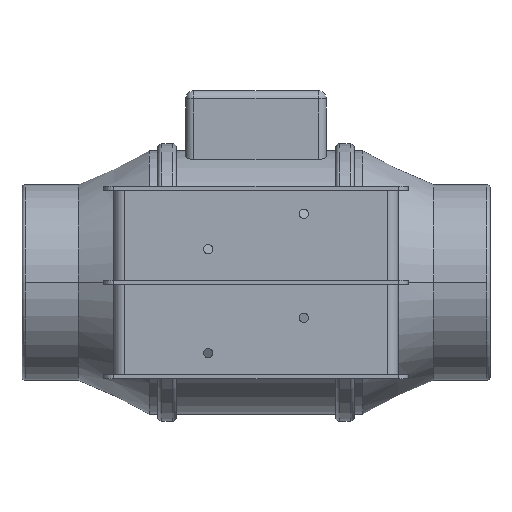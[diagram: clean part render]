
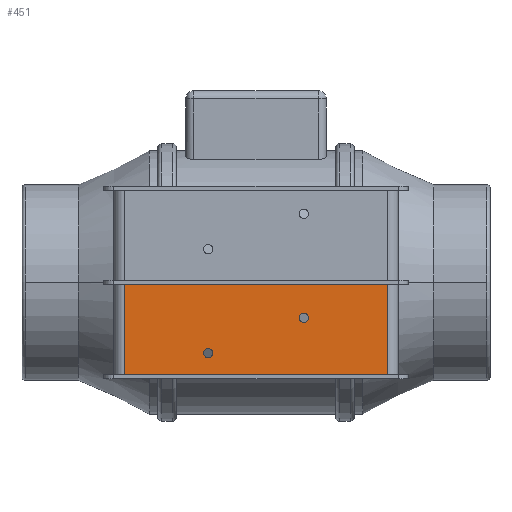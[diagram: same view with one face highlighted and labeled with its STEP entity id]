
A CAD part, front view. The second image highlights one B-rep face of the part: STEP entity #451.
In plain terms, the highlighted planar face has unit normal (0, -1, 0).
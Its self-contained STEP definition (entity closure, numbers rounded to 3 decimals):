
#451=ADVANCED_FACE('',(#969,#970,#971),#972,.T.);
#969=FACE_BOUND('',#1554,.T.);
#970=FACE_BOUND('',#1555,.T.);
#971=FACE_OUTER_BOUND('',#1556,.T.);
#972=PLANE('',#1557);
#1554=EDGE_LOOP('',(#2926,#2927));
#1555=EDGE_LOOP('',(#2928,#2929));
#1556=EDGE_LOOP('',(#2930,#2931,#2932,#2933));
#1557=AXIS2_PLACEMENT_3D('',#2934,#2935,#2936);
#2926=ORIENTED_EDGE('',*,*,#3677,.T.);
#2927=ORIENTED_EDGE('',*,*,#4008,.T.);
#2928=ORIENTED_EDGE('',*,*,#3667,.T.);
#2929=ORIENTED_EDGE('',*,*,#4014,.T.);
#2930=ORIENTED_EDGE('',*,*,#3986,.F.);
#2931=ORIENTED_EDGE('',*,*,#4063,.F.);
#2932=ORIENTED_EDGE('',*,*,#3995,.F.);
#2933=ORIENTED_EDGE('',*,*,#4061,.T.);
#2934=CARTESIAN_POINT('',(0.0,-77.,-47.75));
#2935=DIRECTION('',(0.,-1.0,0.0));
#2936=DIRECTION('',(1.0,0.,0.0));
#3667=EDGE_CURVE('',#4465,#4462,#4466,.T.);
#3677=EDGE_CURVE('',#4483,#4480,#4484,.T.);
#3986=EDGE_CURVE('',#4944,#4946,#4947,.T.);
#3995=EDGE_CURVE('',#4957,#4959,#4960,.T.);
#4008=EDGE_CURVE('',#4480,#4483,#4979,.T.);
#4014=EDGE_CURVE('',#4462,#4465,#4985,.T.);
#4061=EDGE_CURVE('',#4957,#4946,#5054,.T.);
#4063=EDGE_CURVE('',#4959,#4944,#5056,.T.);
#4462=VERTEX_POINT('',#5661);
#4465=VERTEX_POINT('',#5665);
#4466=CIRCLE('',#5666,2.25);
#4480=VERTEX_POINT('',#5683);
#4483=VERTEX_POINT('',#5687);
#4484=CIRCLE('',#5688,2.25);
#4944=VERTEX_POINT('',#6967);
#4946=VERTEX_POINT('',#6969);
#4947=LINE('',#6970,#6971);
#4957=VERTEX_POINT('',#6992);
#4959=VERTEX_POINT('',#6994);
#4960=LINE('',#6995,#6996);
#4979=CIRCLE('',#7028,2.25);
#4985=CIRCLE('',#7034,2.25);
#5054=LINE('',#7124,#7125);
#5056=LINE('',#7127,#7128);
#5661=CARTESIAN_POINT('',(26.0,-77.,-17.5));
#5665=CARTESIAN_POINT('',(21.5,-77.,-17.5));
#5666=AXIS2_PLACEMENT_3D('',#7598,#7599,#7600);
#5683=CARTESIAN_POINT('',(-21.5,-77.,-35.0));
#5687=CARTESIAN_POINT('',(-26.0,-77.,-35.0));
#5688=AXIS2_PLACEMENT_3D('',#7614,#7615,#7616);
#6967=CARTESIAN_POINT('',(-65.4,-77.,-1.0));
#6969=CARTESIAN_POINT('',(65.4,-77.,-1.0));
#6970=CARTESIAN_POINT('',(0.,-77.,-1.0));
#6971=VECTOR('',#8009,1.0);
#6992=CARTESIAN_POINT('',(65.4,-77.,-45.75));
#6994=CARTESIAN_POINT('',(-65.4,-77.,-45.75));
#6995=CARTESIAN_POINT('',(0.,-77.,-45.75));
#6996=VECTOR('',#8021,1.0);
#7028=AXIS2_PLACEMENT_3D('',#8041,#8042,#8043);
#7034=AXIS2_PLACEMENT_3D('',#8053,#8054,#8055);
#7124=CARTESIAN_POINT('',(65.4,-77.,-47.75));
#7125=VECTOR('',#8119,1.0);
#7127=CARTESIAN_POINT('',(-65.4,-77.,-47.75));
#7128=VECTOR('',#8120,1.0);
#7598=CARTESIAN_POINT('',(23.75,-77.,-17.5));
#7599=DIRECTION('',(0.,1.0,0.0));
#7600=DIRECTION('',(1.0,0.,0.0));
#7614=CARTESIAN_POINT('',(-23.75,-77.,-35.0));
#7615=DIRECTION('',(0.,1.0,0.0));
#7616=DIRECTION('',(1.0,0.,0.0));
#8009=DIRECTION('',(1.0,0.,0.0));
#8021=DIRECTION('',(-1.0,0.,0.0));
#8041=CARTESIAN_POINT('',(-23.75,-77.,-35.0));
#8042=DIRECTION('',(0.,1.0,0.0));
#8043=DIRECTION('',(1.0,0.,0.0));
#8053=CARTESIAN_POINT('',(23.75,-77.,-17.5));
#8054=DIRECTION('',(0.,1.0,0.0));
#8055=DIRECTION('',(1.0,0.,0.0));
#8119=DIRECTION('',(0.0,0.0,1.0));
#8120=DIRECTION('',(0.0,0.0,1.0));
